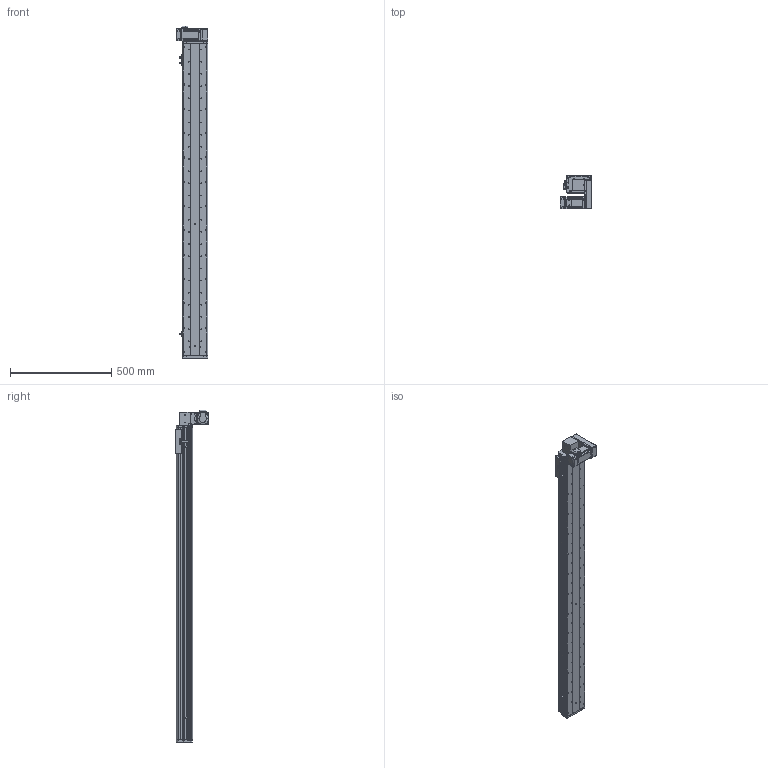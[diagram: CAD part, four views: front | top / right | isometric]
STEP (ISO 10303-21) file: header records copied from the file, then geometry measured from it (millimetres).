
FILE_DESCRIPTION (( 'STEP AP214' ), '1' );
FILE_NAME ('KSD125B-S1350-MLD-CM.STEP', '2017-10-21T03:02:22', ( '微软用户' ), ( '微软中国' ), 'SwSTEP 2.0', 'SolidWorks 2014', '' );
FILE_SCHEMA (( 'AUTOMOTIVE_DESIGN' ));
Length unit declared in the file: millimetre
Products named in the file (17): KSD125B-S1350-MLD-CM; 悵誘欶奻狟殏; 100宽马达安装板连板上下折丝杆同步带; HTPA30S3M150_A_H6_a佪裝蚚; HTPA30S3M150_A_H6_a萇儂蚚; 100宽马达安装板同步带左; KSD125模组1350行程同步带-防尘盖; 125模组1350行程同步带-底板; MHMD042G1CA_2_03; KSD125模组同步带-防撞垫2; 覜茼え68遵圉猾敕; U倰嫖萇假蚾璃; U倰嫖萇EEㄜSX672; KSD125模组同步带-防撞垫1; 前端板-125宽模组同步带; 125模组同步带-尾端板1; KSD125模组同步带-滑动座1
Assembly tree (20 placements, depth 2):
  KSD125B-S1350-MLD-CM
    KSD125模组同步带-滑动座1
    125模组同步带-尾端板1
    前端板-125宽模组同步带
    KSD125模组同步带-防撞垫1
    U倰嫖萇EEㄜSX672  x3
    U倰嫖萇假蚾璃  x3
    覜茼え68遵圉猾敕
    KSD125模组同步带-防撞垫2
    MHMD042G1CA_2_03
    125模组1350行程同步带-底板
    KSD125模组1350行程同步带-防尘盖
    100宽马达安装板同步带左
    HTPA30S3M150_A_H6_a萇儂蚚
    HTPA30S3M150_A_H6_a佪裝蚚
    100宽马达安装板连板上下折丝杆同步带
    悵誘欶奻狟殏
Bounding box: 155 x 166.5 x 1639 mm (x, y, z)
Volume: 4859945.7 mm3; surface area: 1614947.4 mm2
Topology: 19 solids, 22 shells, 2365 faces, 6859 edges, 4534 vertices
Faces by surface type: cylinder 1504, plane 734, cone 105, bspline 22
Entity records: 84593 total; most frequent: CARTESIAN_POINT 16653, DIRECTION 13140, ORIENTED_EDGE 12238, EDGE_CURVE 6197, AXIS2_PLACEMENT_3D 5097, VERTEX_POINT 4126, CIRCLE 2950, LINE 2946
